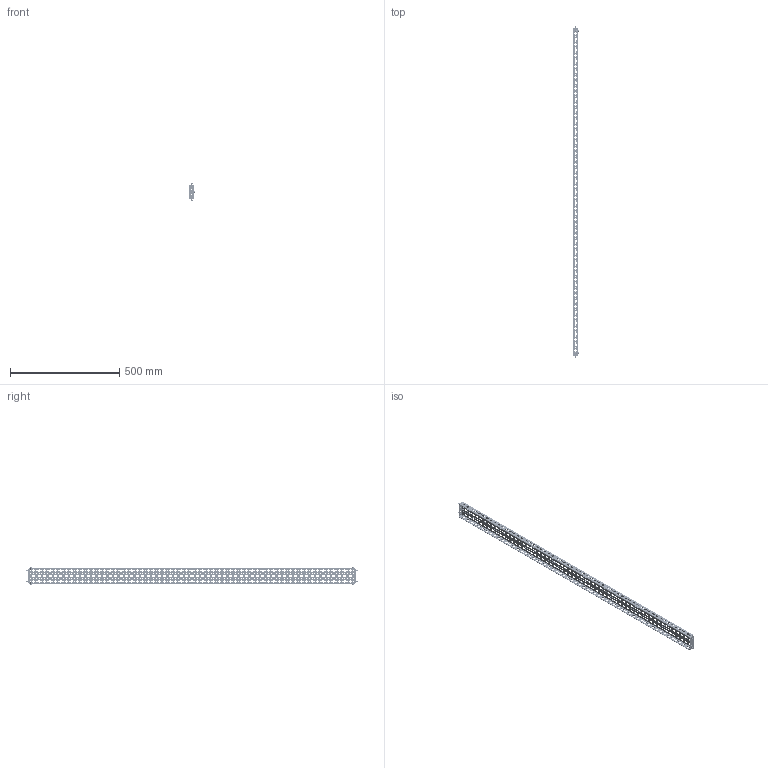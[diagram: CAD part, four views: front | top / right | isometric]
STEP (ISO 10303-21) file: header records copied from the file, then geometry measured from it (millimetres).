
FILE_DESCRIPTION(('Open CASCADE Model'),'2;1');
FILE_NAME('Open CASCADE Shape Model','2025-01-16T16:23:10',('Author'),( 'Open CASCADE'),'Open CASCADE STEP processor 7.8','Open CASCADE 7.8' ,'Unknown');
FILE_SCHEMA(('AUTOMOTIVE_DESIGN { 1 0 10303 214 1 1 1 1 }'));
Products named in the file (1): Solid1
Bounding box: 28.55 x 1520 x 82.11 mm (x, y, z)
Volume: 261702.3 mm3; surface area: 380169.9 mm2
Topology: 7 solids, 7 shells, 6563 faces, 19475 edges, 12928 vertices
Faces by surface type: cylinder 4393, plane 2070, torus 40, cone 20, bspline 20, sphere 20
Full cylindrical faces by diameter (mm): 5 x16
Entity records: 230085 total; most frequent: CARTESIAN_POINT 42323, DIRECTION 41413, ORIENTED_EDGE 38910, EDGE_CURVE 19455, AXIS2_PLACEMENT_3D 15530, VERTEX_POINT 12928, LINE 10353, VECTOR 10353
